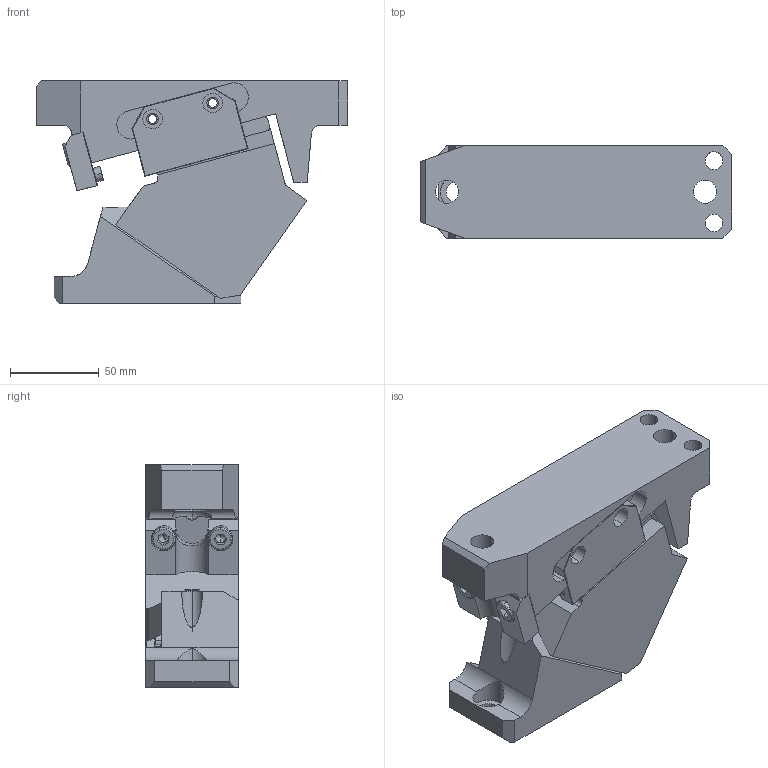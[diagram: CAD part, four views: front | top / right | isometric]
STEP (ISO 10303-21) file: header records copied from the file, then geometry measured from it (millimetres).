
FILE_DESCRIPTION (( 'STEP AP203' ), '1' );
FILE_NAME ('CLD052.35.step', '2014-05-05T08:34:33', ( '' ), ( '' ), 'SwSTEP 2.0', 'SolidWorks 2013', '' );
FILE_SCHEMA (( 'CONFIG_CONTROL_DESIGN' ));
Length unit declared in the file: millimetre
Products named in the file (4): CLD05235-02 CAM SLIDER; CLD05235-03 CAM DRIVER; CLD052.35; CLD05235-01 CAM BASE
Assembly tree (3 placements, depth 2):
  CLD052.35
    CLD05235-01 CAM BASE
    CLD05235-02 CAM SLIDER
    CLD05235-03 CAM DRIVER
Bounding box: 175 x 52 x 125 mm (x, y, z)
Volume: 659740.9 mm3; surface area: 115501.7 mm2
Topology: 3 solids, 7 shells, 372 faces, 968 edges, 614 vertices
Faces by surface type: plane 225, cylinder 122, cone 14, torus 11
Entity records: 11920 total; most frequent: CARTESIAN_POINT 2299, DIRECTION 1934, ORIENTED_EDGE 1916, EDGE_CURVE 958, AXIS2_PLACEMENT_3D 651, VECTOR 632, LINE 632, VERTEX_POINT 614
